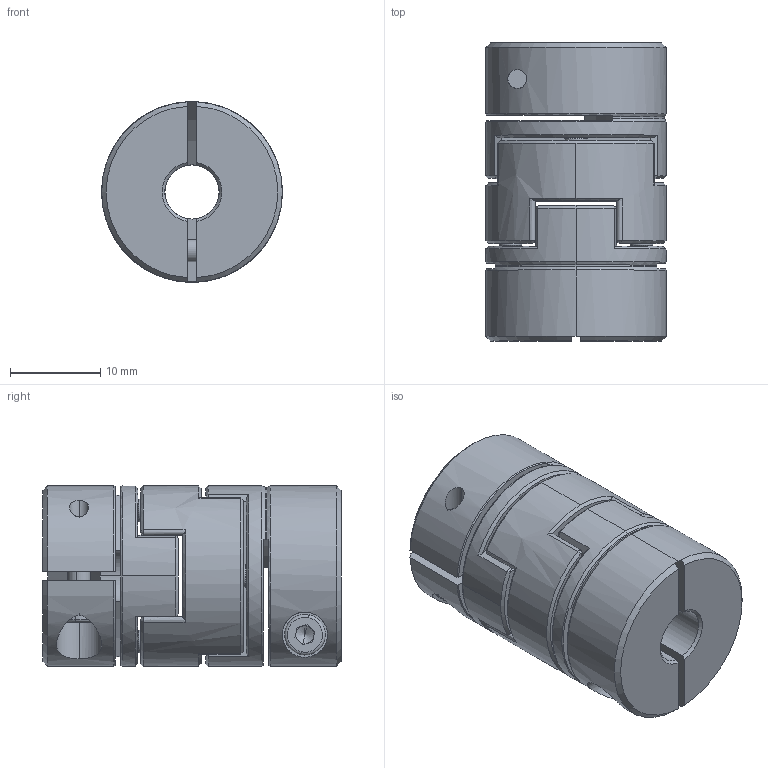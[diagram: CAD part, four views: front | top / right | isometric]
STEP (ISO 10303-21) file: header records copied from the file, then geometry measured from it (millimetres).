
FILE_DESCRIPTION (( 'STEP AP203' ), '1' );
FILE_NAME ('LZ-B-D20L33-6-6.STEP', '2021-10-29T05:37:10', ( '' ), ( '' ), 'SwSTEP 2.0', 'SolidWorks 2018', '' );
FILE_SCHEMA (( 'CONFIG_CONTROL_DESIGN' ));
Length unit declared in the file: millimetre
Products named in the file (1): LZ-B-D20L33-6-6
Bounding box: 20 x 33 x 20 mm (x, y, z)
Volume: 8567.5 mm3; surface area: 6112.4 mm2
Topology: 3 solids, 3 shells, 248 faces, 632 edges, 400 vertices
Faces by surface type: plane 112, cylinder 64, cone 42, bspline 26, torus 4
Entity records: 10263 total; most frequent: CARTESIAN_POINT 4455, ORIENTED_EDGE 1256, DIRECTION 1116, EDGE_CURVE 628, AXIS2_PLACEMENT_3D 431, VERTEX_POINT 400, EDGE_LOOP 276, LINE 254
